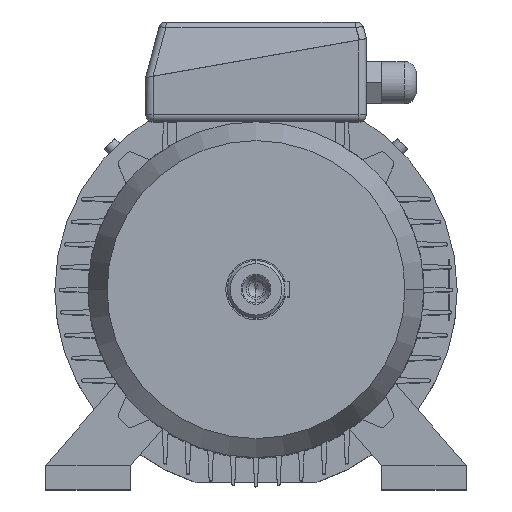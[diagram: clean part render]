
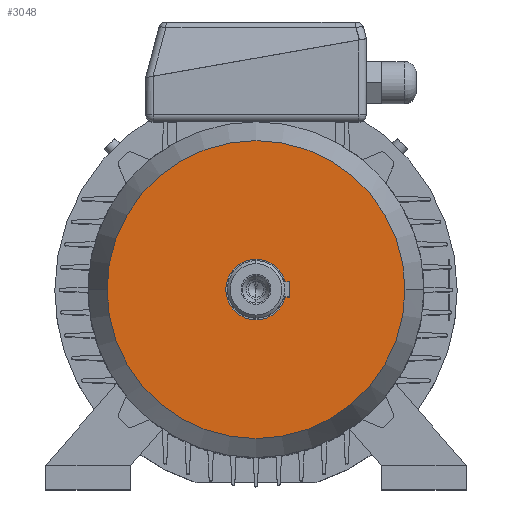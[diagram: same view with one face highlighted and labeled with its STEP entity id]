
A CAD part, top view. The second image highlights one B-rep face of the part: STEP entity #3048.
In plain terms, the highlighted planar face has unit normal (0, 0, 1).
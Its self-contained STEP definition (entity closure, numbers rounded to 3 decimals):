
#16826 = CIRCLE ( 'NONE', #16827, 98.5 ) ;
#16827 = AXIS2_PLACEMENT_3D ( 'NONE', #16828, #16829, #16830 ) ;
#16828 = CARTESIAN_POINT ( 'NONE',  ( 0., 0., 47. ) ) ;
#16829 = DIRECTION ( 'NONE',  ( 0., 0., -1. ) ) ;
#16830 = DIRECTION ( 'NONE',  ( -1., 0., 0. ) ) ;
#17479 = CARTESIAN_POINT ( 'NONE',  ( 98.5, 0., 47. ) ) ;
#1242 = EDGE_CURVE ( 'NONE', #2018, #2284, #16826, .T. ) ;
#17640 = CARTESIAN_POINT ( 'NONE',  ( -98.5, 0., 47. ) ) ;
#17777 = CIRCLE ( 'NONE', #17778, 98.5 ) ;
#17778 = AXIS2_PLACEMENT_3D ( 'NONE', #17779, #17791, #17792 ) ;
#17779 = CARTESIAN_POINT ( 'NONE',  ( 0., 0., 47. ) ) ;
#17791 = DIRECTION ( 'NONE',  ( 0., 0., -1. ) ) ;
#17792 = DIRECTION ( 'NONE',  ( -1., 0., 0. ) ) ;
#1673 = ORIENTED_EDGE ( 'NONE', *, *, #1242, .F. ) ;
#18133 = FACE_OUTER_BOUND ( 'NONE', #2838, .T. ) ;
#18134 = PLANE ( 'NONE',  #18135 ) ;
#18135 = AXIS2_PLACEMENT_3D ( 'NONE', #18136, #18137, #18138 ) ;
#18136 = CARTESIAN_POINT ( 'NONE',  ( 0., 98.5, 47. ) ) ;
#18137 = DIRECTION ( 'NONE',  ( 0., 0., 1. ) ) ;
#18138 = DIRECTION ( 'NONE',  ( 1., 0., 0. ) ) ;
#2018 = VERTEX_POINT ( 'NONE', #17479 ) ;
#2284 = VERTEX_POINT ( 'NONE', #17640 ) ;
#2285 = ORIENTED_EDGE ( 'NONE', *, *, #2536, .F. ) ;
#2536 = EDGE_CURVE ( 'NONE', #2284, #2018, #17777, .T. ) ;
#2838 = EDGE_LOOP ( 'NONE', ( #2285, #1673 ) ) ;
#3048 = ADVANCED_FACE ( 'NONE', ( #18133 ), #18134, .T. ) ;
